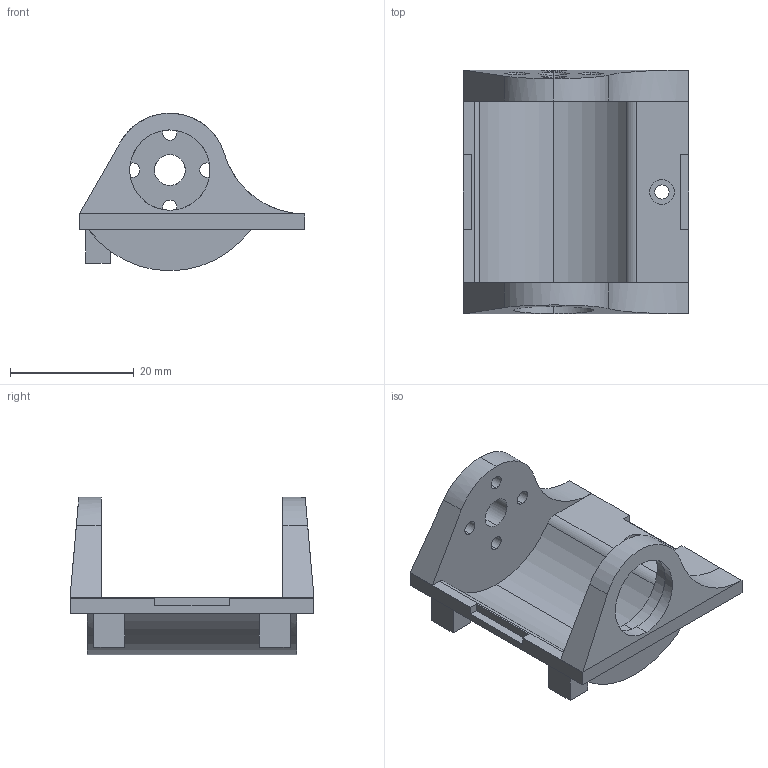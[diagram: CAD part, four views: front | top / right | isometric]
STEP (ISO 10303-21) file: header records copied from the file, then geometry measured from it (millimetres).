
FILE_DESCRIPTION (( 'STEP AP203' ), '1' );
FILE_NAME ('ankle_left_褐灉酘-FT.STEP', '2026-09-23T02:38:27', ( '' ), ( '' ), 'SwSTEP 2.0', 'SolidWorks 2021', '' );
FILE_SCHEMA (( 'CONFIG_CONTROL_DESIGN' ));
Length unit declared in the file: millimetre
Products named in the file (1): ankle_left_褐灉酘-FT
Bounding box: 36.52 x 39.5 x 25.5 mm (x, y, z)
Volume: 6125.5 mm3; surface area: 5688.3 mm2
Topology: 1 solids, 1 shells, 88 faces, 228 edges, 150 vertices
Faces by surface type: plane 49, cylinder 39
Entity records: 2796 total; most frequent: CARTESIAN_POINT 518, DIRECTION 456, ORIENTED_EDGE 456, EDGE_CURVE 228, AXIS2_PLACEMENT_3D 156, VERTEX_POINT 150, LINE 144, VECTOR 144
